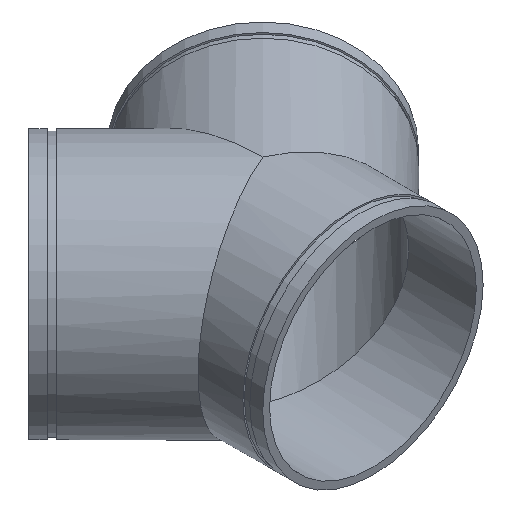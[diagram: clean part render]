
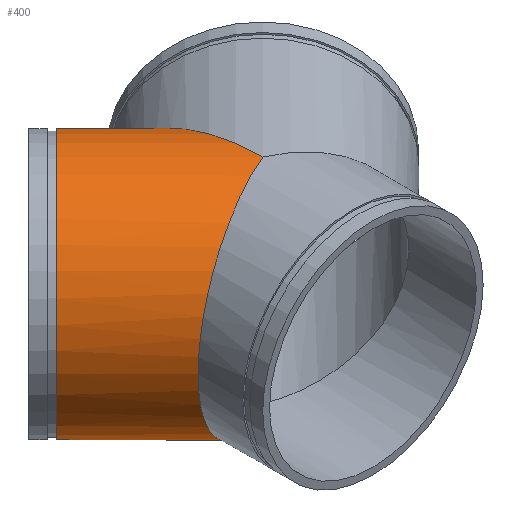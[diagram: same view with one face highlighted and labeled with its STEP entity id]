
A CAD part, isometric view. The second image highlights one B-rep face of the part: STEP entity #400.
In plain terms, the highlighted cylindrical face has radius 203.2 mm (diameter 406.4 mm), a full revolution.
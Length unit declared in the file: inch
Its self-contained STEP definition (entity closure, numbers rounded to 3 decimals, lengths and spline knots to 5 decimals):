
#76=FACE_OUTER_BOUND('',#103,.T.);
#103=EDGE_LOOP('',(#314,#315,#316,#317,#318,#319,#320,#321));
#118=ELLIPSE('',#470,11.31371,8.);
#119=ELLIPSE('',#471,8.65914,8.);
#120=ELLIPSE('',#472,8.65914,8.);
#121=ELLIPSE('',#473,11.31371,8.);
#131=LINE('',#735,#143);
#143=VECTOR('',#595,8.);
#156=CIRCLE('',#446,8.);
#157=CIRCLE('',#447,8.);
#186=VERTEX_POINT('',#686);
#187=VERTEX_POINT('',#687);
#202=VERTEX_POINT('',#730);
#203=VERTEX_POINT('',#731);
#204=VERTEX_POINT('',#733);
#205=VERTEX_POINT('',#736);
#223=EDGE_CURVE('',#186,#187,#156,.T.);
#224=EDGE_CURVE('',#187,#186,#157,.T.);
#243=EDGE_CURVE('',#202,#203,#118,.T.);
#244=EDGE_CURVE('',#204,#202,#119,.T.);
#245=EDGE_CURVE('',#204,#187,#131,.T.);
#246=EDGE_CURVE('',#205,#204,#120,.T.);
#247=EDGE_CURVE('',#203,#205,#121,.T.);
#314=ORIENTED_EDGE('',*,*,#243,.F.);
#315=ORIENTED_EDGE('',*,*,#244,.F.);
#316=ORIENTED_EDGE('',*,*,#245,.T.);
#317=ORIENTED_EDGE('',*,*,#224,.T.);
#318=ORIENTED_EDGE('',*,*,#223,.T.);
#319=ORIENTED_EDGE('',*,*,#245,.F.);
#320=ORIENTED_EDGE('',*,*,#246,.F.);
#321=ORIENTED_EDGE('',*,*,#247,.F.);
#359=CYLINDRICAL_SURFACE('',#469,8.);
#400=ADVANCED_FACE('',(#76),#359,.T.);
#446=AXIS2_PLACEMENT_3D('',#688,#539,#540);
#447=AXIS2_PLACEMENT_3D('',#689,#541,#542);
#469=AXIS2_PLACEMENT_3D('',#729,#589,#590);
#470=AXIS2_PLACEMENT_3D('',#732,#591,#592);
#471=AXIS2_PLACEMENT_3D('',#734,#593,#594);
#472=AXIS2_PLACEMENT_3D('',#737,#596,#597);
#473=AXIS2_PLACEMENT_3D('',#738,#598,#599);
#539=DIRECTION('center_axis',(0.707,-0.707,0.));
#540=DIRECTION('ref_axis',(0.707,0.707,0.));
#541=DIRECTION('center_axis',(0.707,-0.707,0.));
#542=DIRECTION('ref_axis',(0.707,0.707,0.));
#589=DIRECTION('center_axis',(0.707,-0.707,0.));
#590=DIRECTION('ref_axis',(0.707,0.707,0.));
#591=DIRECTION('center_axis',(1.,0.,0.));
#592=DIRECTION('ref_axis',(0.,1.,0.));
#593=DIRECTION('center_axis',(0.383,-0.924,0.));
#594=DIRECTION('ref_axis',(0.924,0.383,0.));
#595=DIRECTION('',(-0.707,0.707,0.));
#596=DIRECTION('center_axis',(0.383,-0.924,0.));
#597=DIRECTION('ref_axis',(0.924,0.383,0.));
#598=DIRECTION('center_axis',(1.,0.,0.));
#599=DIRECTION('ref_axis',(0.,1.,0.));
#686=CARTESIAN_POINT('',(-1.81161,13.12532,0.));
#687=CARTESIAN_POINT('',(-13.12532,1.81161,0.));
#688=CARTESIAN_POINT('Origin',(-7.46846,7.46846,0.));
#689=CARTESIAN_POINT('Origin',(-7.46846,7.46846,0.));
#729=CARTESIAN_POINT('Origin',(-8.48528,8.48528,0.));
#730=CARTESIAN_POINT('',(0.,0.,-8.));
#731=CARTESIAN_POINT('',(0.,11.31371,0.));
#732=CARTESIAN_POINT('Origin',(0.,0.,0.));
#733=CARTESIAN_POINT('',(-8.,-3.31371,0.));
#734=CARTESIAN_POINT('Origin',(0.,0.,
0.));
#735=CARTESIAN_POINT('',(-14.14214,2.82843,0.));
#736=CARTESIAN_POINT('',(0.,0.,8.));
#737=CARTESIAN_POINT('Origin',(0.,0.,
0.));
#738=CARTESIAN_POINT('Origin',(0.,0.,0.));
